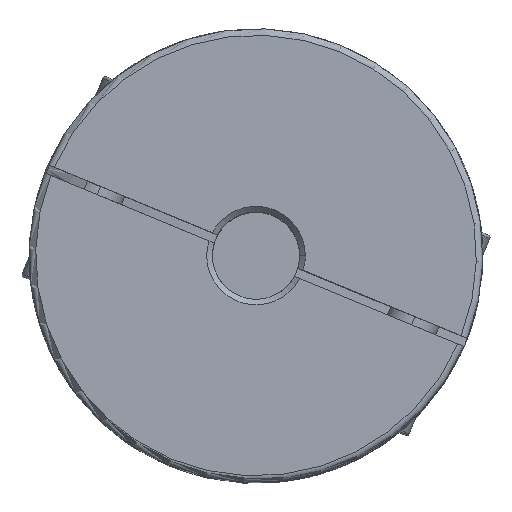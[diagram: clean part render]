
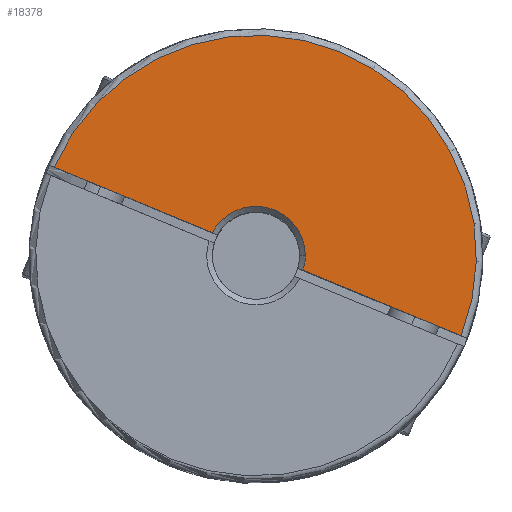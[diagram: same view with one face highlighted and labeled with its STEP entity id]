
A CAD part, top view. The second image highlights one B-rep face of the part: STEP entity #18378.
In plain terms, the highlighted planar face has unit normal (0, 0, 1).
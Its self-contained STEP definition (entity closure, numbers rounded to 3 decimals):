
#2153 = CARTESIAN_POINT ( 'NONE',  ( 0.383, 0.924, 70.1 ) ) ;
#2154 = DIRECTION ( 'NONE',  ( 0.924, -0.383, 0. ) ) ;
#2158 = CARTESIAN_POINT ( 'NONE',  ( 0.383, 0.924, 70.1 ) ) ;
#2159 = DIRECTION ( 'NONE',  ( 0.924, -0.383, 0. ) ) ;
#2165 = CARTESIAN_POINT ( 'NONE',  ( 0., 0., 70.1 ) ) ;
#2166 = DIRECTION ( 'NONE',  ( 0., 0., -1. ) ) ;
#2167 = DIRECTION ( 'NONE',  ( 0., 1., 0. ) ) ;
#3201 = VERTEX_POINT ( 'NONE', #7490 ) ;
#3202 = VERTEX_POINT ( 'NONE', #7806 ) ;
#5315 = EDGE_LOOP ( 'NONE', ( #5887, #5885, #5924, #5920, #5896 ) ) ;
#5885 = ORIENTED_EDGE ( 'NONE', *, *, #17287, .T. ) ;
#5887 = ORIENTED_EDGE ( 'NONE', *, *, #12943, .T. ) ;
#5896 = ORIENTED_EDGE ( 'NONE', *, *, #12859, .T. ) ;
#5897 = VERTEX_POINT ( 'NONE', #7669 ) ;
#5920 = ORIENTED_EDGE ( 'NONE', *, *, #12947, .T. ) ;
#5924 = ORIENTED_EDGE ( 'NONE', *, *, #12945, .T. ) ;
#5992 = VERTEX_POINT ( 'NONE', #7606 ) ;
#6014 = VERTEX_POINT ( 'NONE', #7579 ) ;
#6654 = CARTESIAN_POINT ( 'NONE',  ( 0., 0., 70.1 ) ) ;
#6655 = PLANE ( 'NONE',  #18949 ) ;
#6659 = DIRECTION ( 'NONE',  ( 0., 0., -1. ) ) ;
#6661 = DIRECTION ( 'NONE',  ( -0.924, 0.383, 0. ) ) ;
#7490 = CARTESIAN_POINT ( 'NONE',  ( 11.3, 0., 70.1 ) ) ;
#7579 = CARTESIAN_POINT ( 'NONE',  ( 47.029, -18.398, 70.1 ) ) ;
#7606 = CARTESIAN_POINT ( 'NONE',  ( -46.264, 20.246, 70.1 ) ) ;
#7669 = CARTESIAN_POINT ( 'NONE',  ( 10.782, -3.383, 70.1 ) ) ;
#7806 = CARTESIAN_POINT ( 'NONE',  ( -10.016, 5.231, 70.1 ) ) ;
#8744 = CARTESIAN_POINT ( 'NONE',  ( 0., 0., 70.1 ) ) ;
#8745 = DIRECTION ( 'NONE',  ( 0., 0., -1. ) ) ;
#8746 = DIRECTION ( 'NONE',  ( 0., 1., 0. ) ) ;
#10782 = CARTESIAN_POINT ( 'NONE',  ( 0., 0., 70.1 ) ) ;
#10783 = DIRECTION ( 'NONE',  ( 0., 0., 1. ) ) ;
#10784 = DIRECTION ( 'NONE',  ( -0.924, 0.383, 0. ) ) ;
#12859 = EDGE_CURVE ( 'NONE', #6014, #5992, #14311, .T. ) ;
#12943 = EDGE_CURVE ( 'NONE', #5992, #3202, #14374, .T. ) ;
#12945 = EDGE_CURVE ( 'NONE', #3201, #5897, #14377, .T. ) ;
#12947 = EDGE_CURVE ( 'NONE', #5897, #6014, #14383, .T. ) ;
#12965 = FACE_OUTER_BOUND ( 'NONE', #5315, .T. ) ;
#14311 = CIRCLE ( 'NONE', #14577, 50.5 ) ;
#14374 = LINE ( 'NONE', #2153, #14380 ) ;
#14377 = CIRCLE ( 'NONE', #14639, 11.3 ) ;
#14380 = VECTOR ( 'NONE', #2154, 1000. ) ;
#14383 = LINE ( 'NONE', #2158, #14388 ) ;
#14388 = VECTOR ( 'NONE', #2159, 1000. ) ;
#14577 = AXIS2_PLACEMENT_3D ( 'NONE', #10782, #10783, #10784 ) ;
#14639 = AXIS2_PLACEMENT_3D ( 'NONE', #2165, #2166, #2167 ) ;
#15305 = CIRCLE ( 'NONE', #18475, 11.3 ) ;
#17287 = EDGE_CURVE ( 'NONE', #3202, #3201, #15305, .T. ) ;
#18378 = ADVANCED_FACE ( 'NONE', ( #12965 ), #6655, .F. ) ;
#18475 = AXIS2_PLACEMENT_3D ( 'NONE', #8744, #8745, #8746 ) ;
#18949 = AXIS2_PLACEMENT_3D ( 'NONE', #6654, #6659, #6661 ) ;
